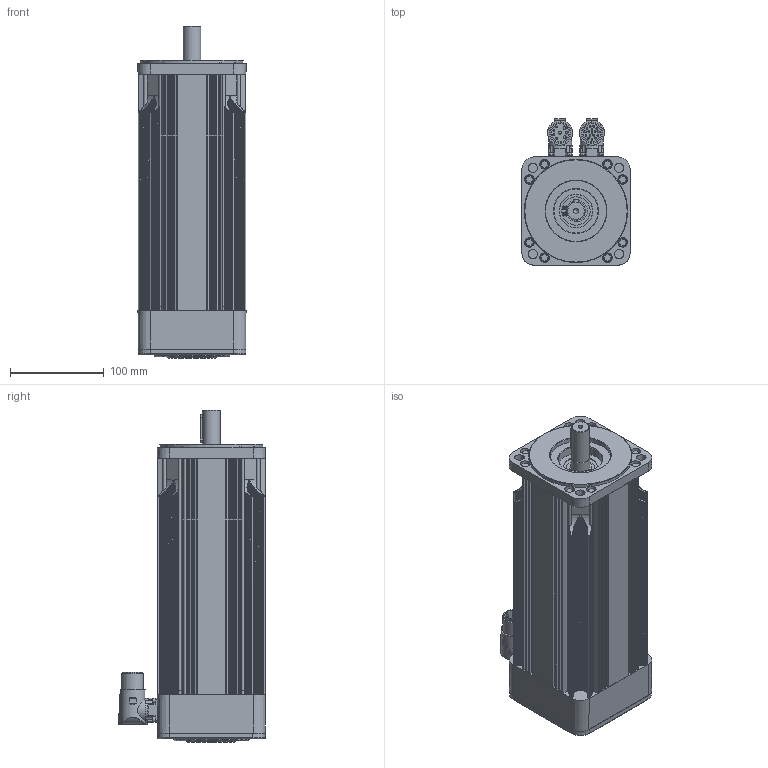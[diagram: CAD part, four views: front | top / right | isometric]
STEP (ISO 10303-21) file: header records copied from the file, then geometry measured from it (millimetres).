
FILE_DESCRIPTION( ( 'Unknown' ), '1' );
FILE_NAME( 'C:/Users/carpi/Desktop/step/Q0A536_11.stp', 'Unknown', ( 'Unknown' ), ( 'Unknown' ), 'PSStep 14.0', 'Unknown', ' ' );
FILE_SCHEMA( ( 'AUTOMOTIVE_DESIGN { 1 0 10303 214 1 1 1 1 }' ) );
Length unit declared in the file: millimetre
Products named in the file (26): Assem1; CUSC_20_52_15_6304_ZZ; A-Ela 20 P; N09403; Vite a brugola testa cil 8,8 -  M  4 x 12; N11401; Vite a brugola testa cil 8,8 -  M 2,5 x 8; CN M23 PAN-SEG AEDC 139 17 pin 90°o SpTcR; CN M23 PAN-POT BEDC 110 4+4 pin 90°o SpTcR; LI-PIA   6x6 x 30; N49400-11_fre; N49400-11_fre-oa0; N49400-11_fre-oa1; N49400-11_fre-oa2; N49400-11_fre-oa3; N49400-11_fre-oa4; N49400-11_fre-oa5; N49400-11_fre-oa6; N33406; N01414; N25400_11_FRE
Assembly tree (35 placements, depth 2):
  Assem1
    CUSC_20_52_15_6304_ZZ
    CUSC_20_52_15_6304_ZZ
    CUSC_20_52_15_6304_ZZ
    CUSC_20_52_15_6304_ZZ
    CUSC_20_52_15_6304_ZZ
    CUSC_20_52_15_6304_ZZ
    A-Ela 20 P
    N09403
    Vite a brugola testa cil 8,8 -  M  4 x 12  x4
    N11401
    Vite a brugola testa cil 8,8 -  M 2,5 x 8  x8
    CN M23 PAN-SEG AEDC 139 17 pin 90°o SpTcR
    CN M23 PAN-POT BEDC 110 4+4 pin 90°o SpTcR
    LI-PIA   6x6 x 30
    N49400-11_fre
    N49400-11_fre-oa0
    N49400-11_fre-oa1
    N49400-11_fre-oa2
    N49400-11_fre-oa3
    N49400-11_fre-oa4
    N49400-11_fre-oa5
    N49400-11_fre-oa6
    N33406
    N01414
    N25400_11_FRE
Bounding box: 115.45 x 156.78 x 354.01 mm (x, y, z)
Volume: 1112942.3 mm3; surface area: 555549.3 mm2
Topology: 35 solids, 36 shells, 2008 faces, 5066 edges, 3213 vertices
Faces by surface type: cylinder 742, plane 614, torus 217, cone 214, bspline 174, sphere 47
Full cylindrical faces by diameter (mm): 2 x21, 2.013 x8, 2.5 x10, 2.7 x8, 3 x4, 3.242 x4, 3.3 x13, 3.4 x8, 4 x12, 4.134 x4, 4.7 x8, 5 x1, 7 x4, 8 x1, 8.5 x8, 17 x2, 19 x2, 19.8 x2, 20 x6, 21.3 x2, 23 x2, 23.9 x1, 24.5 x2, 24.7 x1, 25 x2, 30.24 x4, 41.76 x4, 44 x1, 47 x4, 49.5 x1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
Entity records: 79094 total; most frequent: CARTESIAN_POINT 27046, DIRECTION 8843, ORIENTED_EDGE 8706, EDGE_CURVE 4353, AXIS2_PLACEMENT_3D 3660, VERTEX_POINT 2916, EDGE_LOOP 2316, FACE_OUTER_BOUND 2029
